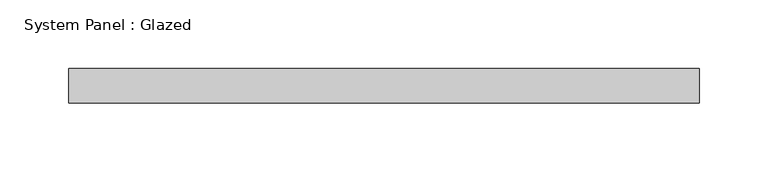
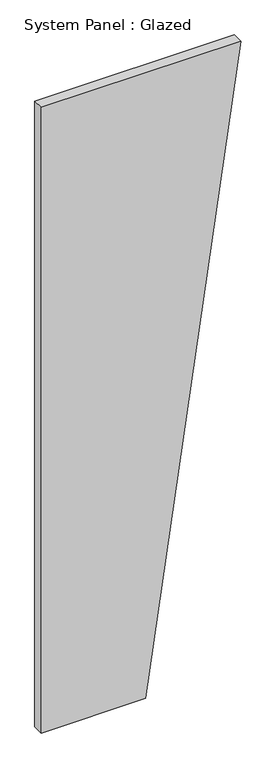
"""IFC4 building model written with IfcOpenShell, lengths in millimetres: plate geometry, System Panel : Glazed."""

from ifc_helpers import new_model, si_unit, frame, origin, place, context, project, spatial, polyline, outline, extrude, source, transform, mapped, element, save


def system_panel_glazed_ef20b260(model_context):
    return source(origin(), model_context, "Body", "SweptSolid", [
        extrude(outline(polyline([(0.0, -230.2446042), (0.0, 10.9640286), (1524.0, 230.2446042), (1524.0, -230.2446042), (0.0, -230.2446042)])), frame((0.0, 19.05, 0.0), z_axis=(0.0, 1.0, 0.0), x_axis=(0.0, 0.0, 1.0)), (0.0, 0.0, 1.0), 25.4),
    ])


if __name__ == "__main__":
    model = new_model("IFC4")
    model_context = context("Model", 3, world=origin())
    ifc_project = project(units=[si_unit("LENGTHUNIT", "METRE", prefix="MILLI")], contexts=[model_context])
    site = spatial("IfcSite", under=ifc_project)
    building = spatial("IfcBuilding", under=site)
    placement = place(None, origin())
    system_panel_glazed_shape = system_panel_glazed_ef20b260(model_context)
    element("IfcPlate", 1, ObjectType="System Panel : Glazed", at=placement, inside=building, context=model_context, shape_type="MappedRepresentation", body=[
        mapped(system_panel_glazed_shape, transform((0.0, 0.0, 0.0), x_axis=(1.0, 0.0, 0.0), y_axis=(0.0, 1.0, 0.0), z_axis=(0.0, 0.0, 1.0))),
    ])
    save(model, "model.ifc")
